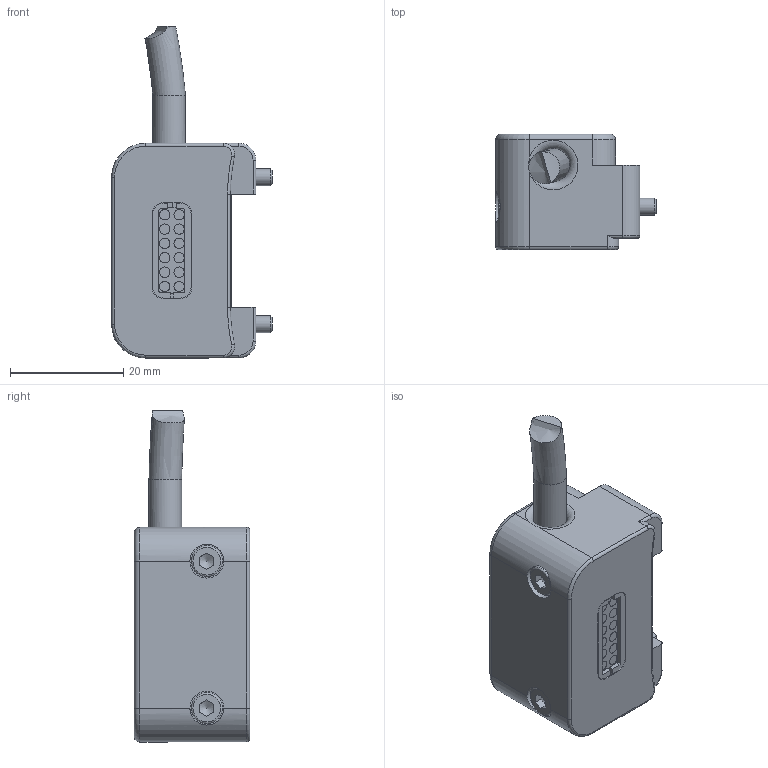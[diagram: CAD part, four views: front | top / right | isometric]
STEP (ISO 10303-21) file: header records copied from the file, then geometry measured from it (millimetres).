
FILE_DESCRIPTION(/* description */ (''),/* implementation_level */ '2;1');
FILE_NAME(/* name */ 'T:\CAD\Standard\SHW\SEK-P\G-SEK100-O-1FE12-2000OE.stp',/* time_stamp */ '2021-03-04T14:35:12+01:00',/* author */ ('vbednarz'),/* organization */ (''),/* preprocessor_version */ 'ST-DEVELOPER v17',/* originating_system */ 'Autodesk Inventor 2018',/* authorisation */ '');
FILE_SCHEMA (('AUTOMOTIVE_DESIGN { 1 0 10303 214 3 1 1 }'));
Length unit declared in the file: millimetre
Products named in the file (1): G-SEK100-O-1FE12
Bounding box: 28.4 x 20.45 x 58.75 mm (x, y, z)
Volume: 15124.2 mm3; surface area: 9468.2 mm2
Topology: 3 solids, 3 shells, 450 faces, 1109 edges, 700 vertices
Faces by surface type: plane 177, cylinder 148, torus 69, bspline 41, cone 15
Full cylindrical faces by diameter (mm): 1 x2, 1.35 x12, 1.8 x2, 1.83 x12, 2.02 x2, 3 x2, 3.4 x2, 4.5 x4, 5 x4, 5.5 x2, 5.8 x2, 6 x2
Entity records: 15342 total; most frequent: CARTESIAN_POINT 4109, DIRECTION 2349, ORIENTED_EDGE 2194, EDGE_CURVE 1097, AXIS2_PLACEMENT_3D 925, VERTEX_POINT 700, CIRCLE 515, EDGE_LOOP 503
